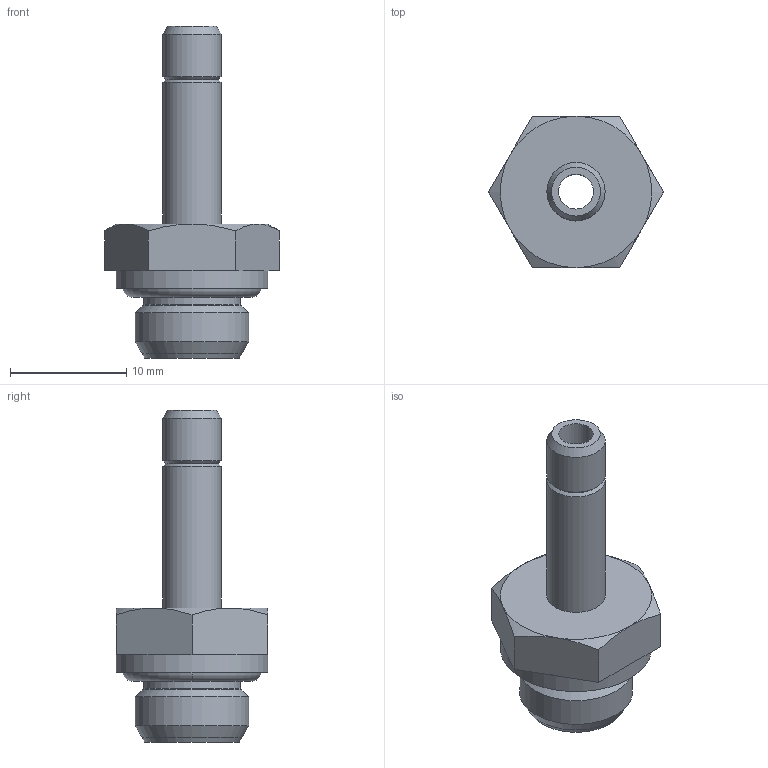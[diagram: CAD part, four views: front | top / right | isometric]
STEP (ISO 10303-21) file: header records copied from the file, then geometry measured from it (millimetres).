
FILE_DESCRIPTION(('Bauteilbeschreibung','HiCAD-Model','HiCAD-STEP-TRANSLATION','Bauteilbeschreibung'),'2;1');
FILE_NAME('B:/ABGLEICH/ZEICHNUNGEN/STEP FÜR INTERNET/STEP/IPSO 06/200605_IPSO_06_5_1-8.STP','2012-02-29T13:21:00+00:00',('Konstrukteur'),('Konstrukteur Firma GmbH'),' HiCAD neXt 2008, Step 3.1.1401.2J ','HiCAD neXt 2008','confidential');
FILE_SCHEMA(('AUTOMOTIVE_DESIGN { 1 2 10303 214 0 1 1 1 }'));
Length unit declared in the file: millimetre
Products named in the file (5): A00605_IPSO_06_5_1_8; A00605; A006050; G 1_8; OR 7_2X1_9
Assembly tree (4 placements, depth 3):
  A00605_IPSO_06_5_1_8
    A00605
    A006050
      G 1_8
    OR 7_2X1_9
Bounding box: 15.01 x 13 x 28.5 mm (x, y, z)
Volume: 1122 mm3; surface area: 1748.3 mm2
Topology: 3 solids, 3 shells, 48 faces, 104 edges, 61 vertices
Faces by surface type: plane 17, cone 16, cylinder 9, torus 6
Full cylindrical faces by diameter (mm): 3 x1, 5 x2, 6 x1, 8.3 x1, 8.566 x2, 9.728 x1, 13 x1
Entity records: 1579 total; most frequent: DIRECTION 220, CARTESIAN_POINT 208, ORIENTED_EDGE 150, AXIS2_PLACEMENT_3D 101, EDGE_CURVE 75, EDGE_LOOP 74, COLOUR_RGB 70, PRESENTATION_STYLE_ASSIGNMENT 70
